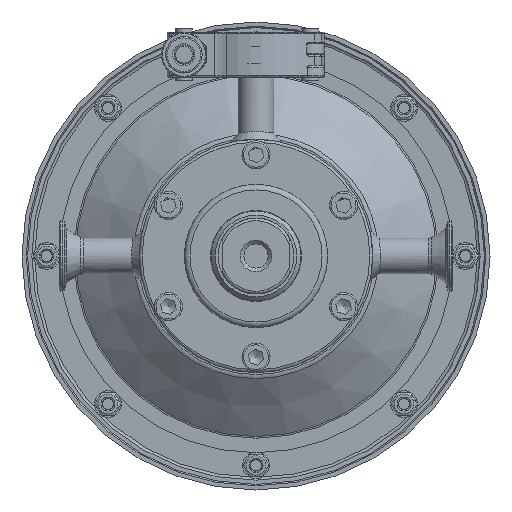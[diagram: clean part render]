
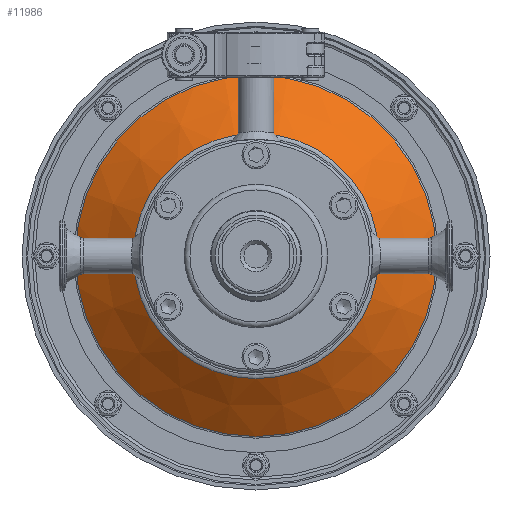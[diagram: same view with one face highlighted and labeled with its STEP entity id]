
A CAD part, front view. The second image highlights one B-rep face of the part: STEP entity #11986.
In plain terms, the highlighted conical face has half-angle 53.876 degrees and reference radius 53.942 mm.
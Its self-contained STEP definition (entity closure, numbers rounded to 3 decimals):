
#428=CONICAL_SURFACE('',#13279,53.942,0.94);
#1033=CIRCLE('',#13275,43.648);
#1034=CIRCLE('',#13276,43.648);
#1036=CIRCLE('',#13278,43.648);
#1037=CIRCLE('',#13280,64.237);
#1038=CIRCLE('',#13281,64.237);
#1039=CIRCLE('',#13282,64.237);
#2348=FACE_OUTER_BOUND('',#3071,.T.);
#3071=EDGE_LOOP('',(#8559,#8560,#8561,#8562,#8563,#8564,#8565,#8566));
#3859=LINE('',#21760,#4348);
#4348=VECTOR('',#15513,53.942);
#5133=VERTEX_POINT('',#21746);
#5134=VERTEX_POINT('',#21747);
#5135=VERTEX_POINT('',#21749);
#5136=VERTEX_POINT('',#21754);
#5137=VERTEX_POINT('',#21755);
#5138=VERTEX_POINT('',#21757);
#6443=EDGE_CURVE('',#5133,#5134,#1033,.T.);
#6444=EDGE_CURVE('',#5135,#5133,#1034,.T.);
#6446=EDGE_CURVE('',#5134,#5135,#1036,.T.);
#6447=EDGE_CURVE('',#5136,#5137,#1037,.T.);
#6448=EDGE_CURVE('',#5138,#5136,#1038,.T.);
#6449=EDGE_CURVE('',#5137,#5138,#1039,.T.);
#6450=EDGE_CURVE('',#5137,#5134,#3859,.T.);
#8559=ORIENTED_EDGE('',*,*,#6447,.F.);
#8560=ORIENTED_EDGE('',*,*,#6448,.F.);
#8561=ORIENTED_EDGE('',*,*,#6449,.F.);
#8562=ORIENTED_EDGE('',*,*,#6450,.T.);
#8563=ORIENTED_EDGE('',*,*,#6446,.T.);
#8564=ORIENTED_EDGE('',*,*,#6444,.T.);
#8565=ORIENTED_EDGE('',*,*,#6443,.T.);
#8566=ORIENTED_EDGE('',*,*,#6450,.F.);
#11986=ADVANCED_FACE('',(#2348),#428,.T.);
#13275=AXIS2_PLACEMENT_3D('',#21748,#15497,#15498);
#13276=AXIS2_PLACEMENT_3D('',#21750,#15499,#15500);
#13278=AXIS2_PLACEMENT_3D('',#21752,#15503,#15504);
#13279=AXIS2_PLACEMENT_3D('',#21753,#15505,#15506);
#13280=AXIS2_PLACEMENT_3D('',#21756,#15507,#15508);
#13281=AXIS2_PLACEMENT_3D('',#21758,#15509,#15510);
#13282=AXIS2_PLACEMENT_3D('',#21759,#15511,#15512);
#15497=DIRECTION('center_axis',(0.,1.,0.));
#15498=DIRECTION('ref_axis',(-1.,0.,0.));
#15499=DIRECTION('center_axis',(0.,1.,0.));
#15500=DIRECTION('ref_axis',(-1.,0.,0.));
#15503=DIRECTION('center_axis',(0.,1.,0.));
#15504=DIRECTION('ref_axis',(-1.,0.,0.));
#15505=DIRECTION('center_axis',(0.,1.,0.));
#15506=DIRECTION('ref_axis',(-1.,0.,0.));
#15507=DIRECTION('center_axis',(0.,1.,0.));
#15508=DIRECTION('ref_axis',(-1.,0.,0.));
#15509=DIRECTION('center_axis',(0.,1.,0.));
#15510=DIRECTION('ref_axis',(-1.,0.,0.));
#15511=DIRECTION('center_axis',(0.,1.,0.));
#15512=DIRECTION('ref_axis',(-1.,0.,0.));
#15513=DIRECTION('',(-0.808,-0.59,0.));
#21746=CARTESIAN_POINT('',(-43.648,0.481,0.));
#21747=CARTESIAN_POINT('',(43.648,0.481,0.));
#21748=CARTESIAN_POINT('Origin',(0.,0.481,
0.));
#21749=CARTESIAN_POINT('',(0.,0.481,-43.648));
#21750=CARTESIAN_POINT('Origin',(0.,0.481,
0.));
#21752=CARTESIAN_POINT('Origin',(0.,0.481,
0.));
#21753=CARTESIAN_POINT('Origin',(0.,7.994,
0.));
#21754=CARTESIAN_POINT('',(-64.237,15.508,0.));
#21755=CARTESIAN_POINT('',(64.237,15.508,0.));
#21756=CARTESIAN_POINT('Origin',(0.,15.508,
0.));
#21757=CARTESIAN_POINT('',(0.,15.508,-64.237));
#21758=CARTESIAN_POINT('Origin',(0.,15.508,
0.));
#21759=CARTESIAN_POINT('Origin',(0.,15.508,
0.));
#21760=CARTESIAN_POINT('',(53.942,7.994,0.));
